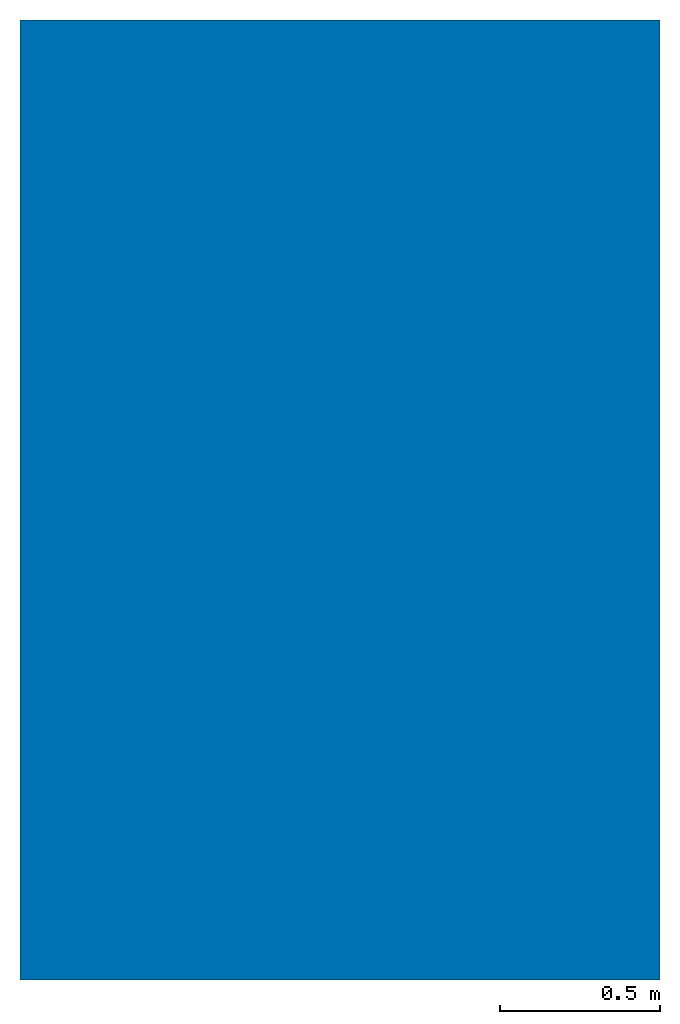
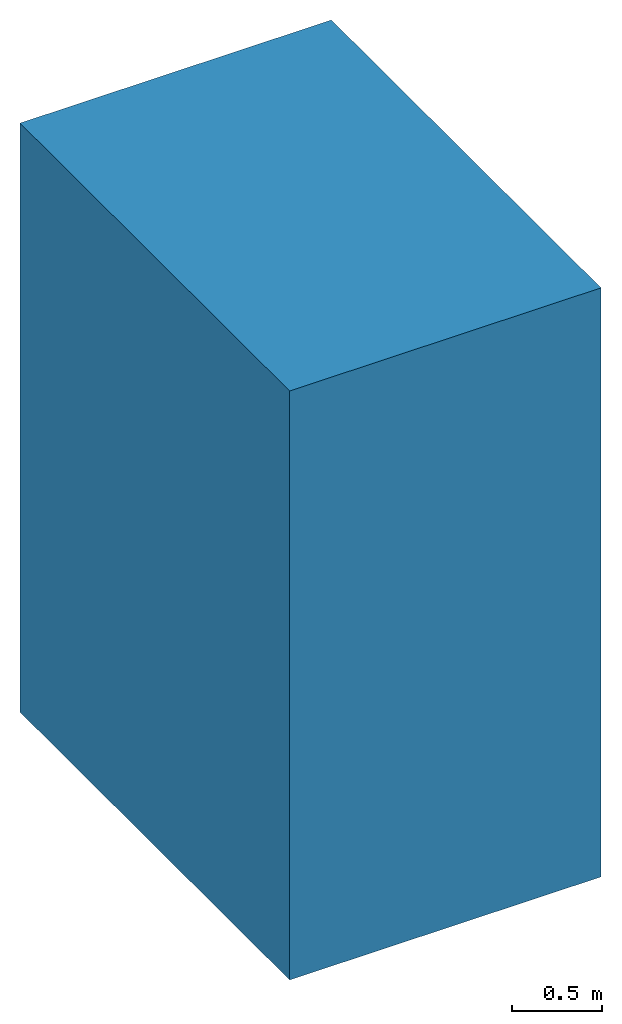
# One storey: 1 wall.
"""IFC4 building model written with IfcOpenShell, lengths in metres."""

from ifc_helpers import new_model, si_unit, origin, place, context, project, spatial, faceted_brep, element, save


model = new_model("IFC4")

# Units and contexts
model_context = context("Model", 3, precision=1e-05, world=origin())
ifc_project = project(units=[si_unit("LENGTHUNIT", "METRE"), si_unit("AREAUNIT", "SQUARE_METRE"), si_unit("VOLUMEUNIT", "CUBIC_METRE")], contexts=[model_context])

# Site, building, storey
placement = place(None, origin())
site = spatial("IfcSite", under=ifc_project, at=placement, Name="Default Site", CompositionType="ELEMENT")
building = spatial("IfcBuilding", under=site, at=placement, Name="Building 1", CompositionType="ELEMENT")
storey = spatial("IfcBuildingStorey", under=building, at=placement, Name="Storey 1", CompositionType="ELEMENT", Elevation=0.0)

# Wall
element("IfcWall", 1, at=placement, inside=storey, Name="Muro de José IfcWall", context=model_context, shape_type="Brep", body=[
    faceted_brep([(0.0, 0.0, 0.0), (0.0, 3.0, 0.0), (2.0, 3.0, 0.0), (2.0, 0.0, 0.0), (0.0, 0.0, 4.0), (2.0, 0.0, 4.0), (2.0, 3.0, 4.0), (0.0, 3.0, 4.0)], [[[0, 1, 2, 3]], [[4, 5, 6, 7]], [[0, 3, 5, 4]], [[3, 2, 6, 5]], [[2, 1, 7, 6]], [[1, 0, 4, 7]]]),
])

save(model, "model.ifc")
